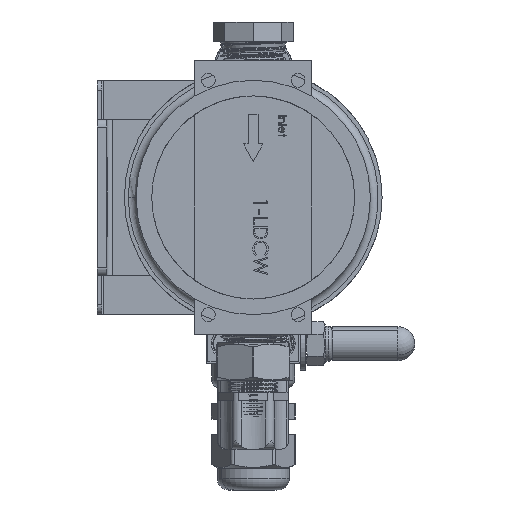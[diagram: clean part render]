
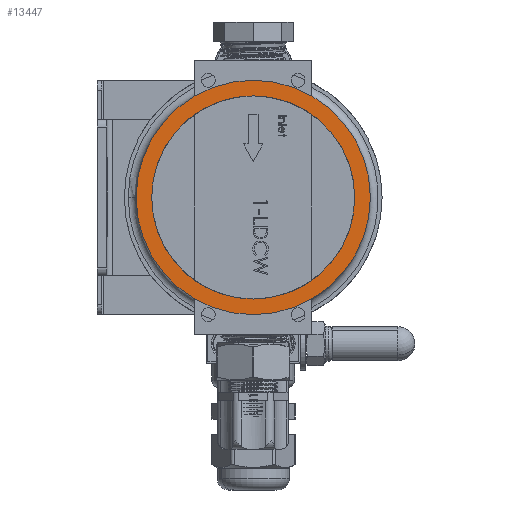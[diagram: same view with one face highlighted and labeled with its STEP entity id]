
A CAD part, left-side view. The second image highlights one B-rep face of the part: STEP entity #13447.
In plain terms, the highlighted planar face has unit normal (-1, 0, 0).
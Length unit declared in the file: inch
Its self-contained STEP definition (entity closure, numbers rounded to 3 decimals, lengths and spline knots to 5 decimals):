
#1398 = ORIENTED_EDGE ( 'NONE', *, *, #27263, .T. ) ;
#1614 = DIRECTION ( 'NONE',  ( 0., 1., 0. ) ) ;
#4460 = CIRCLE ( 'NONE', #56245, 1.3 ) ;
#4731 = ORIENTED_EDGE ( 'NONE', *, *, #52232, .F. ) ;
#9010 = CARTESIAN_POINT ( 'NONE',  ( -18.24308, -1.01824, 0.65592 ) ) ;
#11093 = CARTESIAN_POINT ( 'NONE',  ( -18.24308, 0.48176, 0.65592 ) ) ;
#13447 = ADVANCED_FACE ( 'NONE', ( #65207, #46139 ), #104801, .T. ) ;
#15347 = CARTESIAN_POINT ( 'NONE',  ( -18.24308, -0.81824, 0.65592 ) ) ;
#18678 = AXIS2_PLACEMENT_3D ( 'NONE', #83931, #35162, #92121 ) ;
#19277 = DIRECTION ( 'NONE',  ( 0., 1., 0. ) ) ;
#19926 = AXIS2_PLACEMENT_3D ( 'NONE', #88226, #39433, #96412 ) ;
#25385 = EDGE_CURVE ( 'NONE', #26699, #62896, #49892, .T. ) ;
#26699 = VERTEX_POINT ( 'NONE', #27092 ) ;
#27092 = CARTESIAN_POINT ( 'NONE',  ( -18.24308, 1.78176, 0.65592 ) ) ;
#27263 = EDGE_CURVE ( 'NONE', #48632, #86180, #97820, .T. ) ;
#35162 = DIRECTION ( 'NONE',  ( -1., 0., 0. ) ) ;
#36287 = AXIS2_PLACEMENT_3D ( 'NONE', #11093, #68104, #19277 ) ;
#39433 = DIRECTION ( 'NONE',  ( -1., 0., 0. ) ) ;
#46139 = FACE_OUTER_BOUND ( 'NONE', #82586, .T. ) ;
#48197 = DIRECTION ( 'NONE',  ( -1., 0., 0. ) ) ;
#48614 = CARTESIAN_POINT ( 'NONE',  ( -18.24308, 1.98176, 0.65592 ) ) ;
#48632 = VERTEX_POINT ( 'NONE', #48614 ) ;
#49892 = CIRCLE ( 'NONE', #19926, 1.3 ) ;
#50356 = DIRECTION ( 'NONE',  ( -1., 0., 0. ) ) ;
#52232 = EDGE_CURVE ( 'NONE', #62896, #26699, #4460, .T. ) ;
#56245 = AXIS2_PLACEMENT_3D ( 'NONE', #99143, #50356, #1614 ) ;
#58482 = EDGE_LOOP ( 'NONE', ( #66280, #4731 ) ) ;
#60021 = EDGE_CURVE ( 'NONE', #86180, #48632, #71778, .T. ) ;
#62896 = VERTEX_POINT ( 'NONE', #15347 ) ;
#65207 = FACE_BOUND ( 'NONE', #58482, .T. ) ;
#66280 = ORIENTED_EDGE ( 'NONE', *, *, #25385, .F. ) ;
#68104 = DIRECTION ( 'NONE',  ( -1., 0., 0. ) ) ;
#71778 = CIRCLE ( 'NONE', #36287, 1.5 ) ;
#77109 = AXIS2_PLACEMENT_3D ( 'NONE', #96981, #48197, #105144 ) ;
#82586 = EDGE_LOOP ( 'NONE', ( #100284, #1398 ) ) ;
#83931 = CARTESIAN_POINT ( 'NONE',  ( -18.24308, 0.48176, 0.65592 ) ) ;
#86180 = VERTEX_POINT ( 'NONE', #9010 ) ;
#88226 = CARTESIAN_POINT ( 'NONE',  ( -18.24308, 0.48176, 0.65592 ) ) ;
#92121 = DIRECTION ( 'NONE',  ( 0., 1., 0. ) ) ;
#96412 = DIRECTION ( 'NONE',  ( 0., 1., 0. ) ) ;
#96981 = CARTESIAN_POINT ( 'NONE',  ( -18.24308, 0.48176, 0.65592 ) ) ;
#97820 = CIRCLE ( 'NONE', #18678, 1.5 ) ;
#99143 = CARTESIAN_POINT ( 'NONE',  ( -18.24308, 0.48176, 0.65592 ) ) ;
#100284 = ORIENTED_EDGE ( 'NONE', *, *, #60021, .T. ) ;
#104801 = PLANE ( 'NONE',  #77109 ) ;
#105144 = DIRECTION ( 'NONE',  ( 0., 1., 0. ) ) ;
